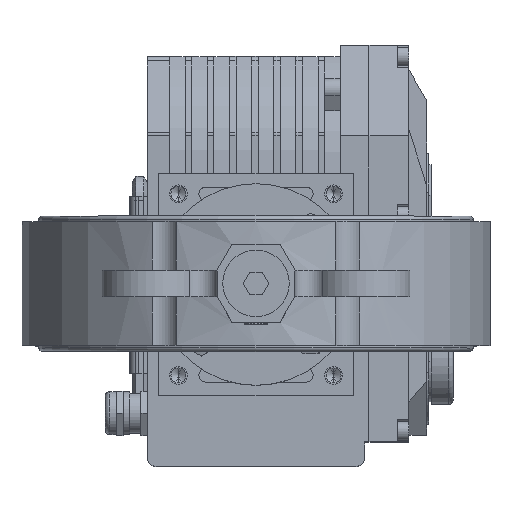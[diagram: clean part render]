
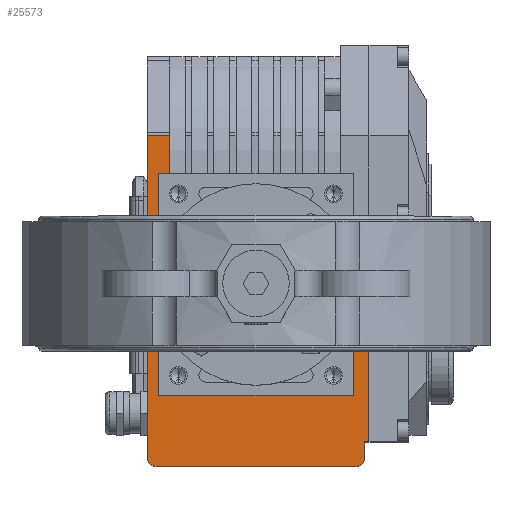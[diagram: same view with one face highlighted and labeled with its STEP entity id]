
A CAD part, top view. The second image highlights one B-rep face of the part: STEP entity #25573.
In plain terms, the highlighted planar face has unit normal (0, 0, 1) as drawn and (0, -1, 0) by its records, which use the part's own axes.
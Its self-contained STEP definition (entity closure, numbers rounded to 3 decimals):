
#18896=DIRECTION('',(1.,0.,0.));
#18897=VECTOR('',#18896,145.5);
#18898=CARTESIAN_POINT('',(-62.,-38.,0.));
#18899=LINE('',#18898,#18897);
#19746=DIRECTION('',(1.,0.,0.));
#19747=VECTOR('',#19746,7.);
#19748=CARTESIAN_POINT('',(-62.,-38.,-98.));
#19749=LINE('',#19748,#19747);
#20007=DIRECTION('',(0.,0.,1.));
#20008=VECTOR('',#20007,7.);
#20009=CARTESIAN_POINT('',(36.,-38.,-100.));
#20010=LINE('',#20009,#20008);
#20011=CARTESIAN_POINT('',(-62.,-38.,-94.));
#20012=DIRECTION('',(0.,-1.,0.));
#20013=DIRECTION('',(-1.,0.,0.));
#20014=AXIS2_PLACEMENT_3D('',#20011,#20012,#20013);
#20016=DIRECTION('',(0.,0.,-1.));
#20017=VECTOR('',#20016,90.);
#20018=CARTESIAN_POINT('',(-66.,-38.,-4.));
#20019=LINE('',#20018,#20017);
#20020=CARTESIAN_POINT('',(-62.,-38.,-4.));
#20021=DIRECTION('',(0.,-1.,0.));
#20022=DIRECTION('',(0.,0.,1.));
#20023=AXIS2_PLACEMENT_3D('',#20020,#20021,#20022);
#20025=DIRECTION('',(0.,0.,1.));
#20026=VECTOR('',#20025,10.);
#20027=CARTESIAN_POINT('',(83.5,-38.,-10.));
#20028=LINE('',#20027,#20026);
#20029=DIRECTION('',(-1.,0.,0.));
#20030=VECTOR('',#20029,17.5);
#20031=CARTESIAN_POINT('',(83.5,-38.,-10.));
#20032=LINE('',#20031,#20030);
#20033=DIRECTION('',(0.,0.,1.));
#20034=VECTOR('',#20033,5.);
#20035=CARTESIAN_POINT('',(66.,-38.,-10.));
#20036=LINE('',#20035,#20034);
#20037=DIRECTION('',(-1.,0.,0.));
#20038=VECTOR('',#20037,100.);
#20039=CARTESIAN_POINT('',(66.,-38.,-5.));
#20040=LINE('',#20039,#20038);
#20041=DIRECTION('',(0.,0.,-1.));
#20042=VECTOR('',#20041,88.);
#20043=CARTESIAN_POINT('',(-34.,-38.,-5.));
#20044=LINE('',#20043,#20042);
#20045=DIRECTION('',(1.,0.,0.));
#20046=VECTOR('',#20045,70.);
#20047=CARTESIAN_POINT('',(-34.,-38.,-93.));
#20048=LINE('',#20047,#20046);
#20097=DIRECTION('',(-1.,0.,0.));
#20098=VECTOR('',#20097,91.);
#20099=CARTESIAN_POINT('',(36.,-38.,-100.));
#20100=LINE('',#20099,#20098);
#21785=DIRECTION('',(0.,0.,-1.));
#21786=VECTOR('',#21785,2.);
#21787=CARTESIAN_POINT('',(-55.,-38.,-98.));
#21788=LINE('',#21787,#21786);
#23050=CARTESIAN_POINT('',(-55.,-38.,-100.));
#23052=VERTEX_POINT('',#23050);
#23054=CARTESIAN_POINT('',(-55.,-38.,-98.));
#23056=VERTEX_POINT('',#23054);
#23058=CARTESIAN_POINT('',(-62.,-38.,0.));
#23059=CARTESIAN_POINT('',(-66.,-38.,-4.));
#23060=VERTEX_POINT('',#23058);
#23061=VERTEX_POINT('',#23059);
#23070=CARTESIAN_POINT('',(-66.,-38.,-94.));
#23071=CARTESIAN_POINT('',(-62.,-38.,-98.));
#23072=VERTEX_POINT('',#23070);
#23073=VERTEX_POINT('',#23071);
#23098=CARTESIAN_POINT('',(83.5,-38.,0.));
#23100=VERTEX_POINT('',#23098);
#23254=CARTESIAN_POINT('',(83.5,-38.,-10.));
#23255=VERTEX_POINT('',#23254);
#23318=CARTESIAN_POINT('',(-34.,-38.,-5.));
#23319=CARTESIAN_POINT('',(-34.,-38.,-93.));
#23320=VERTEX_POINT('',#23318);
#23321=VERTEX_POINT('',#23319);
#23338=CARTESIAN_POINT('',(66.,-38.,-5.));
#23339=VERTEX_POINT('',#23338);
#23340=CARTESIAN_POINT('',(66.,-38.,-10.));
#23341=VERTEX_POINT('',#23340);
#24278=CARTESIAN_POINT('',(36.,-38.,-100.));
#24279=CARTESIAN_POINT('',(36.,-38.,-93.));
#24280=VERTEX_POINT('',#24278);
#24281=VERTEX_POINT('',#24279);
#25542=CARTESIAN_POINT('',(-66.,-38.,0.));
#25543=DIRECTION('',(0.,-1.,0.));
#25544=DIRECTION('',(1.,0.,0.));
#25545=AXIS2_PLACEMENT_3D('',#25542,#25543,#25544);
#25546=PLANE('',#25545);
#25548=ORIENTED_EDGE('',*,*,#25547,.F.);
#25550=ORIENTED_EDGE('',*,*,#25549,.T.);
#25552=ORIENTED_EDGE('',*,*,#25551,.F.);
#25553=ORIENTED_EDGE('',*,*,#25236,.F.);
#25555=ORIENTED_EDGE('',*,*,#25554,.F.);
#25557=ORIENTED_EDGE('',*,*,#25556,.F.);
#25558=ORIENTED_EDGE('',*,*,#25423,.F.);
#25559=ORIENTED_EDGE('',*,*,#24353,.T.);
#25561=ORIENTED_EDGE('',*,*,#25560,.F.);
#25562=ORIENTED_EDGE('',*,*,#24559,.T.);
#25564=ORIENTED_EDGE('',*,*,#25563,.T.);
#25566=ORIENTED_EDGE('',*,*,#25565,.T.);
#25568=ORIENTED_EDGE('',*,*,#25567,.T.);
#25570=ORIENTED_EDGE('',*,*,#25569,.T.);
#25571=EDGE_LOOP('',(#25548,#25550,#25552,#25553,#25555,#25557,#25558,#25559,
#25561,#25562,#25564,#25566,#25568,#25570));
#25572=FACE_OUTER_BOUND('',#25571,.F.);
#25573=ADVANCED_FACE('',(#25572),#25546,.T.);
#20015=CIRCLE('',#20014,4.);
#20024=CIRCLE('',#20023,4.);
#24353=EDGE_CURVE('',#23060,#23100,#18899,.T.);
#24559=EDGE_CURVE('',#23255,#23341,#20032,.T.);
#25236=EDGE_CURVE('',#23073,#23056,#19749,.T.);
#25423=EDGE_CURVE('',#23060,#23061,#20024,.T.);
#25547=EDGE_CURVE('',#24280,#24281,#20010,.T.);
#25549=EDGE_CURVE('',#24280,#23052,#20100,.T.);
#25551=EDGE_CURVE('',#23056,#23052,#21788,.T.);
#25554=EDGE_CURVE('',#23072,#23073,#20015,.T.);
#25556=EDGE_CURVE('',#23061,#23072,#20019,.T.);
#25560=EDGE_CURVE('',#23255,#23100,#20028,.T.);
#25563=EDGE_CURVE('',#23341,#23339,#20036,.T.);
#25565=EDGE_CURVE('',#23339,#23320,#20040,.T.);
#25567=EDGE_CURVE('',#23320,#23321,#20044,.T.);
#25569=EDGE_CURVE('',#23321,#24281,#20048,.T.);
